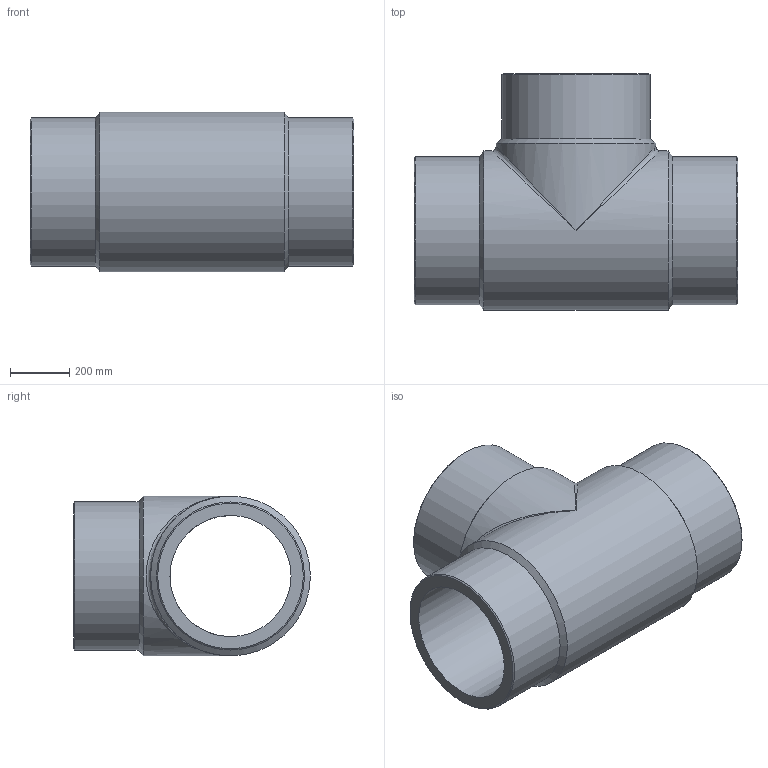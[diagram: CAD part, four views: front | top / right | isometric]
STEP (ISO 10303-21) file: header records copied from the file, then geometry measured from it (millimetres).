
FILE_DESCRIPTION(/* description */ ('Unknown'),/* implementation_level */ '2;1');
FILE_NAME(/* name */ 'TP500C',/* time_stamp */ '2022-06-06T15:59:54+02:00',/* author */ ('Unknown'),/* organization */ ('Unknown'),/* preprocessor_version */ 'ST-DEVELOPER v18.102',/* originating_system */ 'Solid Edge',/* authorisation */ 'Unknown');
FILE_SCHEMA (('AUTOMOTIVE_DESIGN {1 0 10303 214 3 1 1}'));
Length unit declared in the file: millimetre
Products named in the file (1): TP500C
Bounding box: 1094 x 800 x 540 mm (x, y, z)
Volume: 106298932.4 mm3; surface area: 4066718.8 mm2
Topology: 1 solids, 1 shells, 18 faces, 44 edges, 23 vertices
Faces by surface type: cylinder 7, cone 6, plane 3, bspline 2
Full cylindrical faces by diameter (mm): 409.2 x2, 500 x3, 540 x2
Entity records: 528 total; most frequent: CARTESIAN_POINT 171, DIRECTION 76, ORIENTED_EDGE 42, AXIS2_PLACEMENT_3D 38, EDGE_LOOP 36, FACE_BOUND 36, EDGE_CURVE 21, VERTEX_POINT 19
